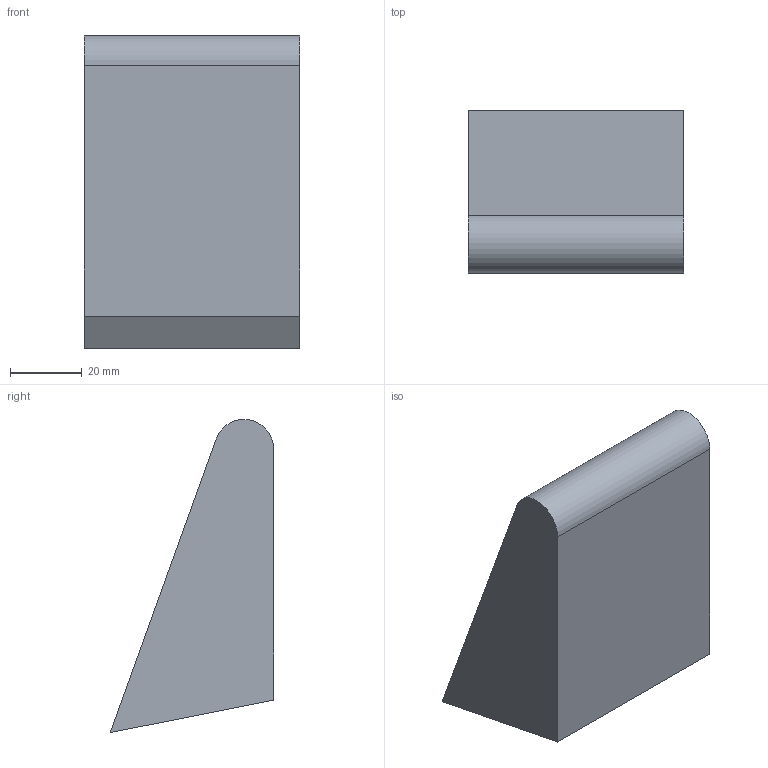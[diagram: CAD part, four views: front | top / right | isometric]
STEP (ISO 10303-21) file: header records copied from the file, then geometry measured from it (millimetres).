
FILE_DESCRIPTION(('CATIA V5 STEP Exchange'),'2;1');
FILE_NAME('C:\Users\Administrator\Desktop\SHT0015763.stp','2023-10-30T02:50:47+00:00',('none'),('none'),'CATIA Version 5 Release 20 GA (IN-10)','CATIA V5 STEP AP214','none');
FILE_SCHEMA(('AUTOMOTIVE_DESIGN { 1 0 10303 214 1 1 1 1 }'));
Length unit declared in the file: millimetre
Products named in the file (1): Part2
Bounding box: 60 x 45.62 x 87.33 mm (x, y, z)
Volume: 142910.4 mm3; surface area: 18365.9 mm2
Topology: 1 solids, 1 shells, 6 faces, 12 edges, 8 vertices
Faces by surface type: plane 5, cylinder 1
Entity records: 178 total; most frequent: CARTESIAN_POINT 27, DIRECTION 24, ORIENTED_EDGE 24, EDGE_CURVE 12, VECTOR 10, LINE 10, AXIS2_PLACEMENT_3D 9, VERTEX_POINT 8
